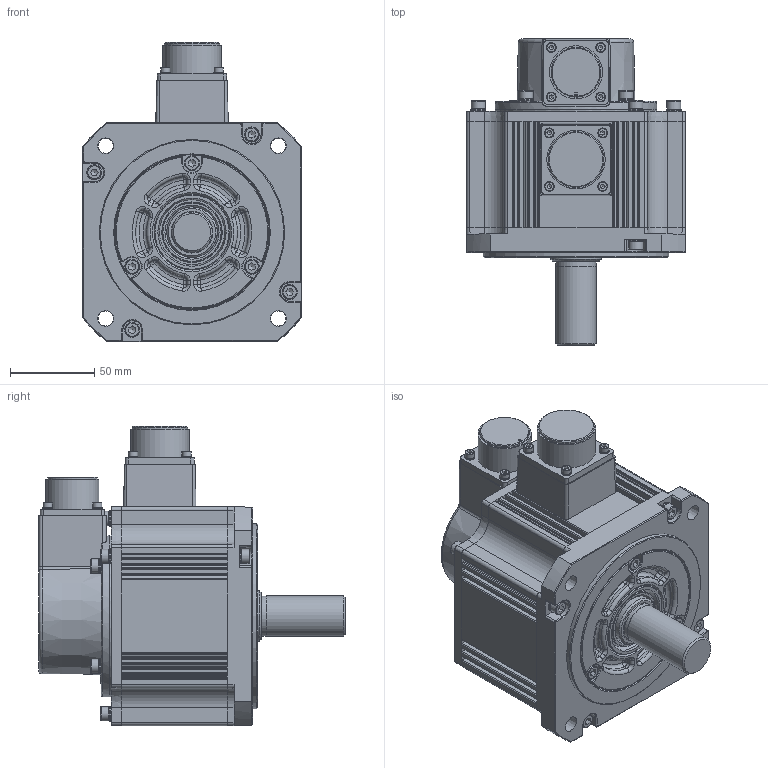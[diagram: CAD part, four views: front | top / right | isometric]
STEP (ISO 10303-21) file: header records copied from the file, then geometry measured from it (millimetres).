
FILE_DESCRIPTION((''),'2;1');
FILE_NAME('C:\Documents and Settings\11644\桌面\SME-M100.stp','2016-07-15T17:00:43',('11644'),(''),'Autodesk Inventor 2008','Autodesk Inventor 2008','');
FILE_SCHEMA(('AUTOMOTIVE_DESIGN { 1 0 10303 214 1 1 1 1 }'));
Length unit declared in the file: millimetre
Products named in the file (2): 零件152; 零件152_3
Assembly tree (1 placements, depth 2):
  零件152
    零件152_3
Bounding box: 130 x 182 x 177.7 mm (x, y, z)
Volume: 1609035.2 mm3; surface area: 126722.7 mm2
Topology: 1 solids, 1 shells, 997 faces, 2376 edges, 1435 vertices
Faces by surface type: plane 454, cylinder 295, torus 128, cone 69, sphere 32, bspline 19
Full cylindrical faces by diameter (mm): 5.5 x8, 5.82 x8, 8.5 x15, 8.97 x15, 23.8 x1, 24 x1, 29.5 x1, 30 x1, 31.5 x1, 33 x1, 34.7 x1, 35.319 x1, 40.504 x1, 45 x1, 92 x1, 95.8 x1, 110 x1
Entity records: 29675 total; most frequent: CARTESIAN_POINT 6546, DIRECTION 4769, ORIENTED_EDGE 4312, EDGE_CURVE 2156, AXIS2_PLACEMENT_3D 1834, VERTEX_POINT 1403, EDGE_LOOP 1247, VECTOR 1101
